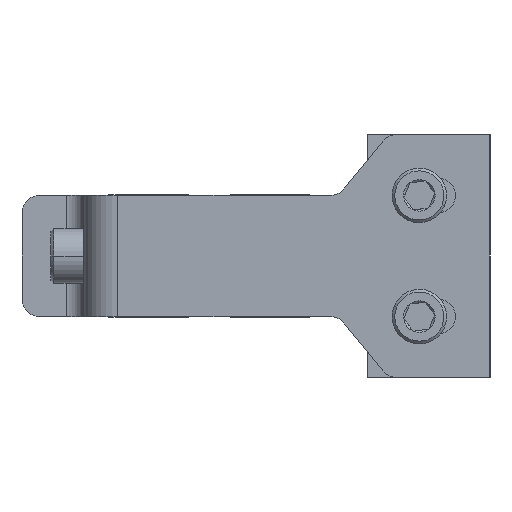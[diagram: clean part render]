
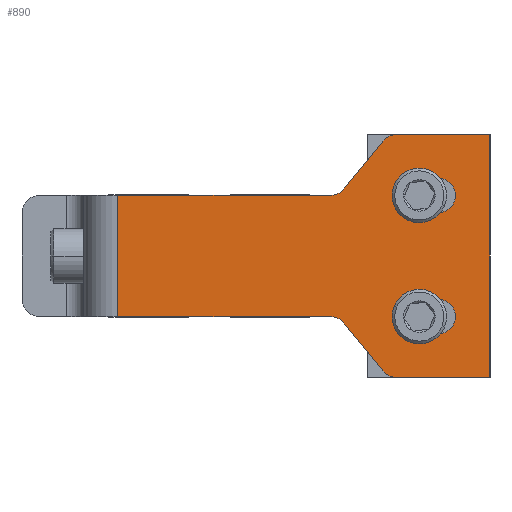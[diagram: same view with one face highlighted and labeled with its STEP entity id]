
A CAD part, left-side view. The second image highlights one B-rep face of the part: STEP entity #890.
In plain terms, the highlighted planar face has unit normal (-1, 0, 0).
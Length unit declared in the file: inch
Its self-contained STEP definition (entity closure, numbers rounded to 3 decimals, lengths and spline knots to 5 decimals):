
#155=DIRECTION('',(0.,0.,1.));
#156=VECTOR('',#155,0.875);
#157=CARTESIAN_POINT('',(0.,2.688,-0.4375));
#158=LINE('',#157,#156);
#181=DIRECTION('',(0.,-0.632,-0.775));
#182=VECTOR('',#181,0.446);
#183=CARTESIAN_POINT('',(0.,1.05449,-0.48347));
#184=LINE('',#183,#182);
#185=CARTESIAN_POINT('',(0.,1.15134,-0.5625));
#186=DIRECTION('',(1.,0.,0.));
#187=DIRECTION('',(0.,0.,1.));
#188=AXIS2_PLACEMENT_3D('',#185,#186,#187);
#190=DIRECTION('',(0.,-1.,0.));
#191=VECTOR('',#190,1.53666);
#192=CARTESIAN_POINT('',(0.,2.688,-0.4375));
#193=LINE('',#192,#191);
#194=DIRECTION('',(0.,1.,0.));
#195=VECTOR('',#194,1.53666);
#196=CARTESIAN_POINT('',(0.,1.15134,0.4375));
#197=LINE('',#196,#195);
#198=CARTESIAN_POINT('',(0.,1.15134,0.5625));
#199=DIRECTION('',(1.,0.,0.));
#200=DIRECTION('',(0.,-0.775,-0.632));
#201=AXIS2_PLACEMENT_3D('',#198,#199,#200);
#203=DIRECTION('',(0.,0.632,-0.775));
#204=VECTOR('',#203,0.446);
#205=CARTESIAN_POINT('',(0.,0.77251,0.82903));
#206=LINE('',#205,#204);
#207=CARTESIAN_POINT('',(0.,0.67566,0.75));
#208=DIRECTION('',(-1.,0.,0.));
#209=DIRECTION('',(0.,0.,1.));
#210=AXIS2_PLACEMENT_3D('',#207,#208,#209);
#212=DIRECTION('',(0.,0.,1.));
#213=VECTOR('',#212,1.75);
#214=CARTESIAN_POINT('',(0.,0.,-0.875));
#215=LINE('',#214,#213);
#216=DIRECTION('',(0.,-1.,0.));
#217=VECTOR('',#216,0.67566);
#218=CARTESIAN_POINT('',(0.,0.67566,-0.875));
#219=LINE('',#218,#217);
#220=CARTESIAN_POINT('',(0.,0.67566,-0.75));
#221=DIRECTION('',(-1.,0.,0.));
#222=DIRECTION('',(0.,0.775,-0.632));
#223=AXIS2_PLACEMENT_3D('',#220,#221,#222);
#225=CARTESIAN_POINT('',(0.,0.51,0.4375));
#226=DIRECTION('',(1.,0.,0.));
#227=DIRECTION('',(0.,0.,-1.));
#228=AXIS2_PLACEMENT_3D('',#225,#226,#227);
#230=DIRECTION('',(0.,1.,0.));
#231=VECTOR('',#230,0.135);
#232=CARTESIAN_POINT('',(0.,0.375,0.3125));
#233=LINE('',#232,#231);
#234=CARTESIAN_POINT('',(0.,0.375,0.4375));
#235=DIRECTION('',(1.,0.,0.));
#236=DIRECTION('',(0.,0.,1.));
#237=AXIS2_PLACEMENT_3D('',#234,#235,#236);
#239=DIRECTION('',(0.,-1.,0.));
#240=VECTOR('',#239,0.135);
#241=CARTESIAN_POINT('',(0.,0.51,0.5625));
#242=LINE('',#241,#240);
#243=CARTESIAN_POINT('',(0.,0.51,-0.4375));
#244=DIRECTION('',(1.,0.,0.));
#245=DIRECTION('',(0.,0.,-1.));
#246=AXIS2_PLACEMENT_3D('',#243,#244,#245);
#248=DIRECTION('',(0.,1.,0.));
#249=VECTOR('',#248,0.135);
#250=CARTESIAN_POINT('',(0.,0.375,-0.5625));
#251=LINE('',#250,#249);
#252=CARTESIAN_POINT('',(0.,0.375,-0.4375));
#253=DIRECTION('',(1.,0.,0.));
#254=DIRECTION('',(0.,0.,1.));
#255=AXIS2_PLACEMENT_3D('',#252,#253,#254);
#257=DIRECTION('',(0.,-1.,0.));
#258=VECTOR('',#257,0.135);
#259=CARTESIAN_POINT('',(0.,0.51,-0.3125));
#260=LINE('',#259,#258);
#337=DIRECTION('',(0.,-1.,0.));
#338=VECTOR('',#337,0.67566);
#339=CARTESIAN_POINT('',(0.,0.67566,0.875));
#340=LINE('',#339,#338);
#462=CARTESIAN_POINT('',(0.,0.375,-0.5625));
#464=VERTEX_POINT('',#462);
#485=CARTESIAN_POINT('',(0.,1.05449,0.48347));
#486=CARTESIAN_POINT('',(0.,1.15134,0.4375));
#487=VERTEX_POINT('',#485);
#488=VERTEX_POINT('',#486);
#495=CARTESIAN_POINT('',(0.,0.67566,0.875));
#496=CARTESIAN_POINT('',(0.,0.77251,0.82903));
#497=VERTEX_POINT('',#495);
#498=VERTEX_POINT('',#496);
#499=CARTESIAN_POINT('',(0.,1.15134,-0.4375));
#500=CARTESIAN_POINT('',(0.,1.05449,-0.48347));
#501=VERTEX_POINT('',#499);
#502=VERTEX_POINT('',#500);
#513=CARTESIAN_POINT('',(0.,0.77251,-0.82903));
#514=CARTESIAN_POINT('',(0.,0.67566,-0.875));
#515=VERTEX_POINT('',#513);
#516=VERTEX_POINT('',#514);
#525=CARTESIAN_POINT('',(0.,0.51,0.3125));
#526=VERTEX_POINT('',#525);
#527=CARTESIAN_POINT('',(0.,0.51,-0.3125));
#528=CARTESIAN_POINT('',(0.,0.375,-0.3125));
#529=VERTEX_POINT('',#527);
#530=VERTEX_POINT('',#528);
#535=CARTESIAN_POINT('',(0.,2.688,-0.4375));
#536=VERTEX_POINT('',#535);
#537=CARTESIAN_POINT('',(0.,0.51,-0.5625));
#538=VERTEX_POINT('',#537);
#542=CARTESIAN_POINT('',(0.,0.51,0.5625));
#544=VERTEX_POINT('',#542);
#548=CARTESIAN_POINT('',(0.,2.688,0.4375));
#550=VERTEX_POINT('',#548);
#555=CARTESIAN_POINT('',(0.,0.375,0.5625));
#556=VERTEX_POINT('',#555);
#557=CARTESIAN_POINT('',(0.,0.,-0.875));
#559=VERTEX_POINT('',#557);
#567=CARTESIAN_POINT('',(0.,0.,0.875));
#568=VERTEX_POINT('',#567);
#575=CARTESIAN_POINT('',(0.,0.375,0.3125));
#576=VERTEX_POINT('',#575);
#841=CARTESIAN_POINT('',(0.,0.,0.875));
#842=DIRECTION('',(-1.,0.,0.));
#843=DIRECTION('',(0.,0.,1.));
#844=AXIS2_PLACEMENT_3D('',#841,#842,#843);
#845=PLANE('',#844);
#847=ORIENTED_EDGE('',*,*,#846,.F.);
#849=ORIENTED_EDGE('',*,*,#848,.F.);
#851=ORIENTED_EDGE('',*,*,#850,.F.);
#852=ORIENTED_EDGE('',*,*,#807,.T.);
#853=ORIENTED_EDGE('',*,*,#831,.F.);
#855=ORIENTED_EDGE('',*,*,#854,.F.);
#857=ORIENTED_EDGE('',*,*,#856,.F.);
#859=ORIENTED_EDGE('',*,*,#858,.F.);
#861=ORIENTED_EDGE('',*,*,#860,.T.);
#863=ORIENTED_EDGE('',*,*,#862,.F.);
#865=ORIENTED_EDGE('',*,*,#864,.F.);
#867=ORIENTED_EDGE('',*,*,#866,.F.);
#868=EDGE_LOOP('',(#847,#849,#851,#852,#853,#855,#857,#859,#861,#863,#865,
#867));
#869=FACE_OUTER_BOUND('',#868,.F.);
#871=ORIENTED_EDGE('',*,*,#870,.F.);
#873=ORIENTED_EDGE('',*,*,#872,.F.);
#875=ORIENTED_EDGE('',*,*,#874,.F.);
#877=ORIENTED_EDGE('',*,*,#876,.F.);
#878=EDGE_LOOP('',(#871,#873,#875,#877));
#879=FACE_BOUND('',#878,.F.);
#881=ORIENTED_EDGE('',*,*,#880,.F.);
#883=ORIENTED_EDGE('',*,*,#882,.F.);
#885=ORIENTED_EDGE('',*,*,#884,.F.);
#887=ORIENTED_EDGE('',*,*,#886,.F.);
#888=EDGE_LOOP('',(#881,#883,#885,#887));
#889=FACE_BOUND('',#888,.F.);
#189=CIRCLE('',#188,0.125);
#202=CIRCLE('',#201,0.125);
#211=CIRCLE('',#210,0.125);
#224=CIRCLE('',#223,0.125);
#229=CIRCLE('',#228,0.125);
#238=CIRCLE('',#237,0.125);
#247=CIRCLE('',#246,0.125);
#256=CIRCLE('',#255,0.125);
#807=EDGE_CURVE('',#536,#550,#158,.T.);
#831=EDGE_CURVE('',#488,#550,#197,.T.);
#846=EDGE_CURVE('',#502,#515,#184,.T.);
#848=EDGE_CURVE('',#501,#502,#189,.T.);
#850=EDGE_CURVE('',#536,#501,#193,.T.);
#854=EDGE_CURVE('',#487,#488,#202,.T.);
#856=EDGE_CURVE('',#498,#487,#206,.T.);
#858=EDGE_CURVE('',#497,#498,#211,.T.);
#860=EDGE_CURVE('',#497,#568,#340,.T.);
#862=EDGE_CURVE('',#559,#568,#215,.T.);
#864=EDGE_CURVE('',#516,#559,#219,.T.);
#866=EDGE_CURVE('',#515,#516,#224,.T.);
#870=EDGE_CURVE('',#526,#544,#229,.T.);
#872=EDGE_CURVE('',#576,#526,#233,.T.);
#874=EDGE_CURVE('',#556,#576,#238,.T.);
#876=EDGE_CURVE('',#544,#556,#242,.T.);
#880=EDGE_CURVE('',#538,#529,#247,.T.);
#882=EDGE_CURVE('',#464,#538,#251,.T.);
#884=EDGE_CURVE('',#530,#464,#256,.T.);
#886=EDGE_CURVE('',#529,#530,#260,.T.);
#890=ADVANCED_FACE('',(#869,#879,#889),#845,.T.);
